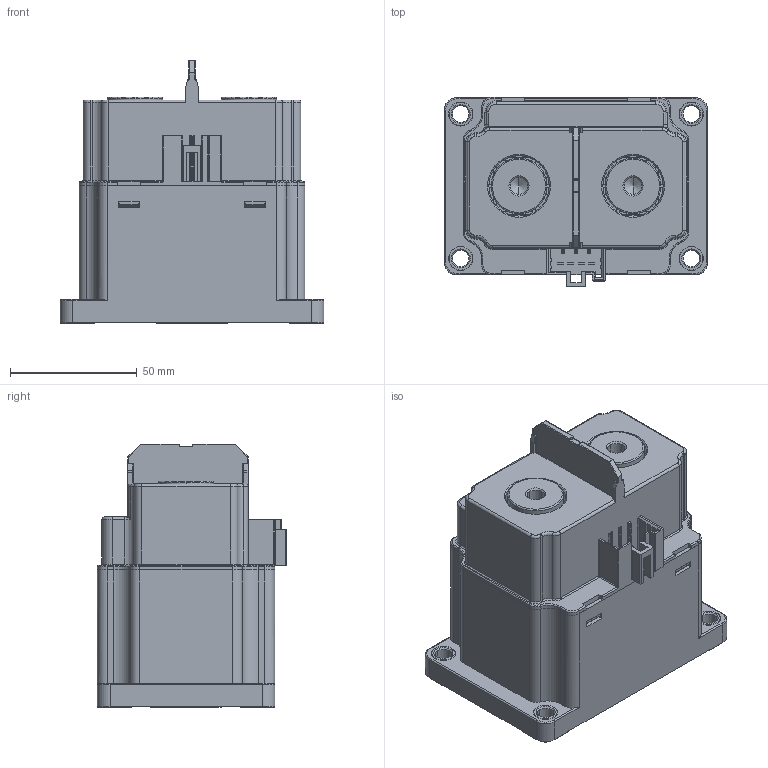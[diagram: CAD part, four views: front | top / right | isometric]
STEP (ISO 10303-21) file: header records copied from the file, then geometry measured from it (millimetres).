
FILE_DESCRIPTION (( 'STEP AP214' ), '1' );
FILE_NAME ('CHPV-S600F 籵蚚唳3D杅耀.STEP', '2025-11-26T09:04:06', ( '' ), ( '' ), 'SwSTEP 2.0', 'SolidWorks 2016', '' );
FILE_SCHEMA (( 'AUTOMOTIVE_DESIGN' ));
Length unit declared in the file: millimetre
Products named in the file (12): 0-1635001-0 上外壳（D); 5-1630034-0 諉揖窒煦2; 2-1635XX-0狟俋褲郪璃; CHPV-S600F 籵蚚唳3D杅耀; 5-1630030-0 奻俋褲窒煦; 5-1630043-0 噙郪璃1; 5-1630032-0 樟萇ん窒煦12VDC; 0-1635002-0 下外壳（D); 5-1630031-0 狟俋褲窒煦; 0-1630023-0 垫圈; 5-1630042-0噙郪璃; 0-1630072-0 竘堤傷
Assembly tree (15 placements, depth 6):
  CHPV-S600F 籵蚚唳3D杅耀
    5-1630032-0 樟萇ん窒煦12VDC
      5-1630034-0 諉揖窒煦2
        5-1630043-0 噙郪璃1
          5-1630042-0噙郪璃
            0-1630072-0 竘堤傷  x2
    5-1630030-0 奻俋褲窒煦
      0-1635001-0 上外壳（D)
    5-1630031-0 狟俋褲窒煦
      2-1635XX-0狟俋褲郪璃
        0-1635002-0 下外壳（D)
        0-1630023-0 垫圈  x4
Bounding box: 104 x 74.7 x 104 mm (x, y, z)
Volume: 101818.2 mm3; surface area: 109988.1 mm2
Topology: 8 solids, 8 shells, 3138 faces, 7822 edges, 4584 vertices
Faces by surface type: cylinder 1345, plane 917, torus 448, sphere 175, bspline 169, cone 84
Entity records: 132814 total; most frequent: CARTESIAN_POINT 28655, DIRECTION 15340, ORIENTED_EDGE 14686, EDGE_CURVE 7343, AXIS2_PLACEMENT_3D 5816, VERTEX_POINT 4390, VECTOR 3708, LINE 3708
